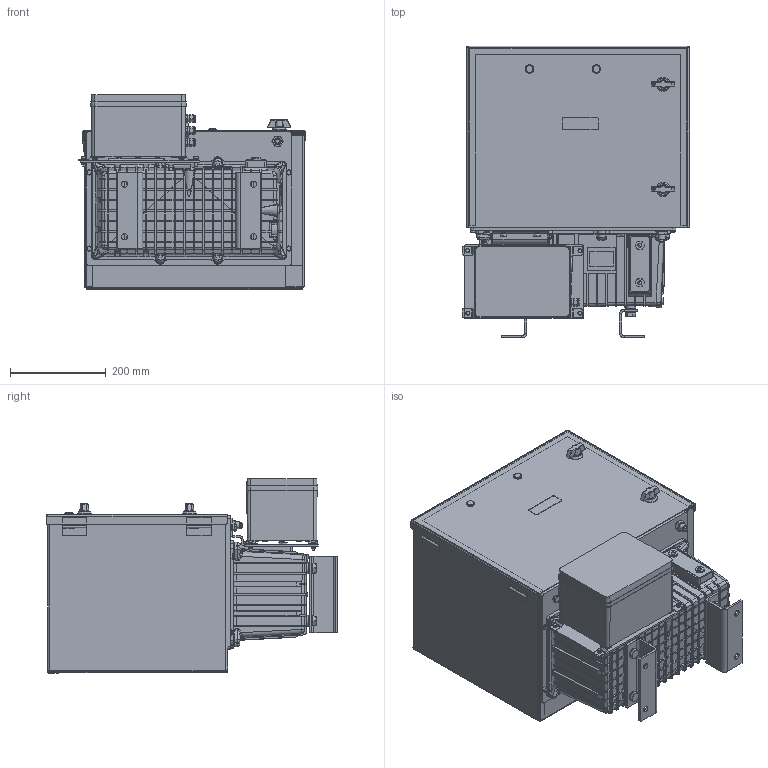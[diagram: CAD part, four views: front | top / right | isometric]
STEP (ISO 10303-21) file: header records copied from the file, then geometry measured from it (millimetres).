
FILE_DESCRIPTION(/* description */ (''),/* implementation_level */ '2;1');
FILE_NAME(/* name */ 'C:\Users\nemgal01\Desktop\STEP\73148.stp',/* time_stamp */ '2017-03-09T12:32:30+01:00',/* author */ ('nemgal01'),/* organization */ (''),/* preprocessor_version */ 'ST-DEVELOPER v16.1',/* originating_system */ 'Autodesk Inventor 2016',/* authorisation */ '');
FILE_SCHEMA (('AUTOMOTIVE_DESIGN { 1 0 10303 214 3 1 1 }'));
Products named in the file (1): Assembly7_Shrinkwrap_1
Bounding box: 475.3 x 610.8 x 407.59 mm (x, y, z)
Volume: 17764656.7 mm3; surface area: 2478495.7 mm2
Topology: 5 solids, 5 shells, 3315 faces, 9292 edges, 5856 vertices
Faces by surface type: plane 1960, cylinder 652, bspline 293, cone 258, torus 122, sphere 30
Full cylindrical faces by diameter (mm): 5 x12, 7.323 x3, 8 x3, 8.5 x4, 9.8 x2, 10 x14, 11.053 x4, 11.4 x3, 12.217 x2, 13 x8, 13.2 x3, 14.287 x3, 15 x3, 16 x2, 17.2 x4, 17.526 x2, 18 x2, 18.5 x6, 20 x4, 30 x2, 30.5 x1, 38 x1
Entity records: 115859 total; most frequent: CARTESIAN_POINT 29253, ORIENTED_EDGE 18198, DIRECTION 16939, EDGE_CURVE 8939, AXIS2_PLACEMENT_3D 5907, VERTEX_POINT 5744, LINE 5125, VECTOR 5125
